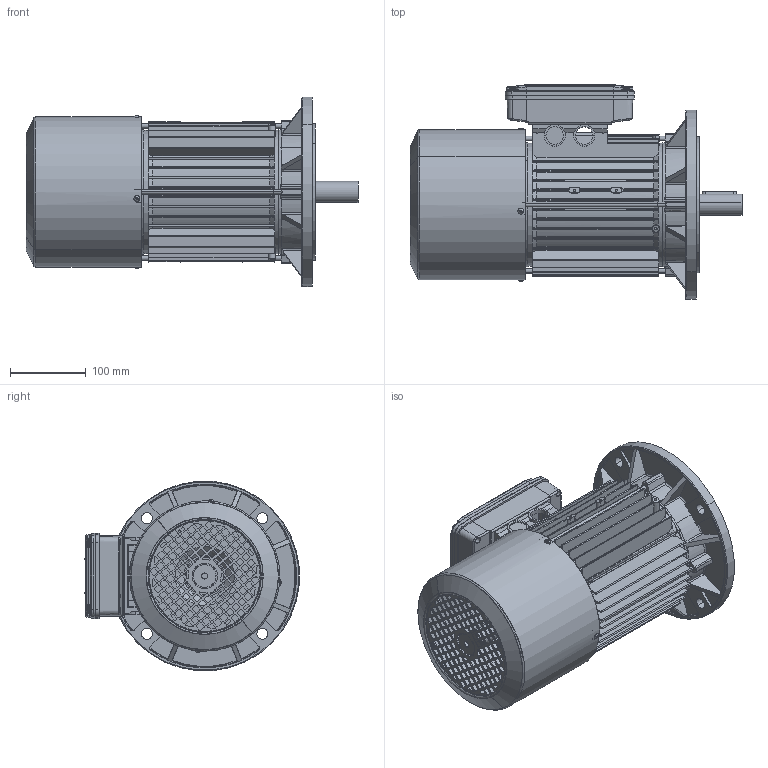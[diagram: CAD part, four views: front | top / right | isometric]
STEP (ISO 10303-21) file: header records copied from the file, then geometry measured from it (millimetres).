
FILE_DESCRIPTION (( 'STEP AP214' ), '1' );
FILE_NAME ('BM 100 B5 - DM.STEP', '2018-01-25T09:53:41', ( '' ), ( '' ), 'SwSTEP 2.0', 'SolidWorks 2017', '' );
FILE_SCHEMA (( 'AUTOMOTIVE_DESIGN' ));
Length unit declared in the file: millimetre
Products named in the file (13): Vite testa rotonda M3; Tirante SM 100; Chiavetta 100-112; Albero BM 100; Cuffia BM 100- DEAL0097; Scudo Lato Freno P1 BM 100 - DEAQ0197; Carcassa 100 B5; BM 100 B5 - DM; Scatola per Morsettiera Doppia 90-100-112 - Completa; Vite  a testa bombata M4x16; Coperchio per Scatola per Morsettiera Doppia 90-100-112; Scatola per Morsettiera Doppia 90-100-112; Scudo a flangia B5 Fi 250 BA-BM 100 - DEAA0094
Assembly tree (21 placements, depth 3):
  BM 100 B5 - DM
    Carcassa 100 B5
    Scudo Lato Freno P1 BM 100 - DEAQ0197
    Cuffia BM 100- DEAL0097
    Albero BM 100
    Chiavetta 100-112
    Tirante SM 100  x4
    Vite testa rotonda M3  x4
    Scudo a flangia B5 Fi 250 BA-BM 100 - DEAA0094
    Scatola per Morsettiera Doppia 90-100-112 - Completa
      Scatola per Morsettiera Doppia 90-100-112
      Coperchio per Scatola per Morsettiera Doppia 90-100-112
      Vite  a testa bombata M4x16  x4
Bounding box: 437 x 282.52 x 249.05 mm (x, y, z)
Volume: 2068513.1 mm3; surface area: 1070709 mm2
Topology: 24 solids, 24 shells, 3596 faces, 9937 edges, 6424 vertices
Faces by surface type: cylinder 1555, plane 1345, torus 346, cone 231, bspline 111, sphere 8
Entity records: 116371 total; most frequent: CARTESIAN_POINT 32930, ORIENTED_EDGE 17884, DIRECTION 16798, EDGE_CURVE 8942, AXIS2_PLACEMENT_3D 6148, VERTEX_POINT 5824, VECTOR 4502, LINE 4502
